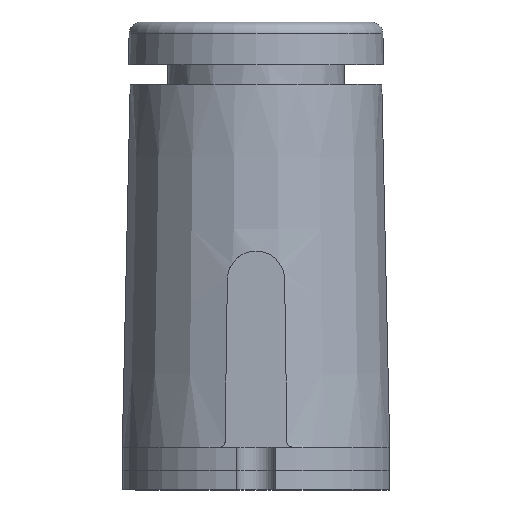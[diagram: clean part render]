
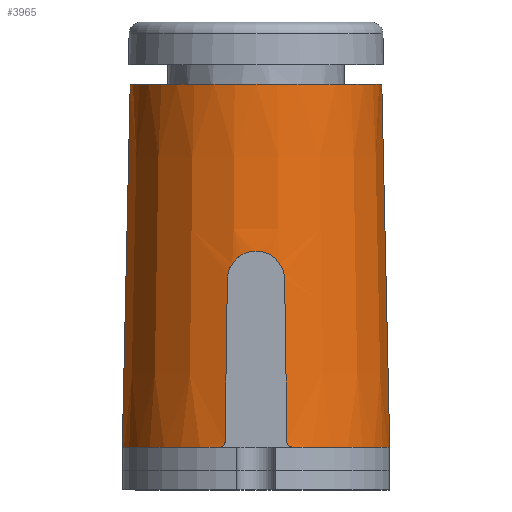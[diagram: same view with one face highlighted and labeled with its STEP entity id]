
A CAD part, left-side view. The second image highlights one B-rep face of the part: STEP entity #3965.
In plain terms, the highlighted conical face has half-angle 1.25 degrees and reference radius 44.45 mm.
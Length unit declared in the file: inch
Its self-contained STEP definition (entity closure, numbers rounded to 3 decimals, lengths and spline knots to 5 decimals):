
#52=(
BOUNDED_CURVE()
B_SPLINE_CURVE(2,(#8032,#8033,#8034),.UNSPECIFIED.,.F.,.F.)
B_SPLINE_CURVE_WITH_KNOTS((3,3),(0.,5.41489),.UNSPECIFIED.)
CURVE()
GEOMETRIC_REPRESENTATION_ITEM()
RATIONAL_B_SPLINE_CURVE((1.,1.,1.))
REPRESENTATION_ITEM('')
);
#53=(
BOUNDED_CURVE()
B_SPLINE_CURVE(2,(#8080,#8081,#8082),.UNSPECIFIED.,.F.,.F.)
B_SPLINE_CURVE_WITH_KNOTS((3,3),(0.,5.41489),.UNSPECIFIED.)
CURVE()
GEOMETRIC_REPRESENTATION_ITEM()
RATIONAL_B_SPLINE_CURVE((1.,1.,1.))
REPRESENTATION_ITEM('')
);
#87=CONICAL_SURFACE('',#4356,1.75,1.25);
#462=LINE('',#8285,#719);
#471=LINE('',#8310,#728);
#719=VECTOR('',#5243,4.73442);
#728=VECTOR('',#5278,4.73442);
#979=FACE_OUTER_BOUND('',#1228,.T.);
#1228=EDGE_LOOP('',(#3237,#3238,#3239,#3240,#3241,#3242,#3243,#3244,#3245,
#3246,#3247,#3248));
#1441=CIRCLE('',#4298,1.75);
#1459=CIRCLE('',#4349,1.64635);
#1461=CIRCLE('',#4357,1.75);
#1501=B_SPLINE_CURVE_WITH_KNOTS('',3,(#8042,#8043,#8044,#8045,#8046,#8047,
#8048,#8049,#8050,#8051),.UNSPECIFIED.,.F.,.F.,(4,2,2,2,4),(0.24589,
0.30631,0.36769,0.42782,0.48648),
 .UNSPECIFIED.);
#1502=B_SPLINE_CURVE_WITH_KNOTS('',3,(#8057,#8058,#8059,#8060,#8061,#8062,
#8063,#8064,#8065,#8066,#8067,#8068,#8069,#8070,#8071,#8072,#8073,#8074),
 .UNSPECIFIED.,.F.,.F.,(4,2,2,2,2,2,2,2,4),(0.009,0.35835,
0.7167,1.07553,1.43436,1.79319,2.15203,
2.51038,2.85973),.UNSPECIFIED.);
#1503=B_SPLINE_CURVE_WITH_KNOTS('',3,(#8088,#8089,#8090,#8091,#8092,#8093,
#8094,#8095,#8096,#8097),.UNSPECIFIED.,.F.,.F.,(4,2,2,2,4),(0.00146,
0.06013,0.12026,0.18164,0.24206),
 .UNSPECIFIED.);
#1505=B_SPLINE_CURVE_WITH_KNOTS('',3,(#8183,#8184,#8185,#8186,#8187,#8188,
#8189,#8190),.UNSPECIFIED.,.F.,.F.,(4,2,2,4),(0.31955,0.35845,
0.47794,0.47821),.UNSPECIFIED.);
#1507=B_SPLINE_CURVE_WITH_KNOTS('',3,(#8265,#8266,#8267,#8268,#8269,#8270,
#8271,#8272),.UNSPECIFIED.,.F.,.F.,(4,2,2,4),(1.43707,1.43733,
1.55683,1.59573),.UNSPECIFIED.);
#1767=VERTEX_POINT('',#8030);
#1768=VERTEX_POINT('',#8031);
#1771=VERTEX_POINT('',#8041);
#1773=VERTEX_POINT('',#8056);
#1775=VERTEX_POINT('',#8079);
#1777=VERTEX_POINT('',#8087);
#1780=VERTEX_POINT('',#8106);
#1803=VERTEX_POINT('',#8176);
#1805=VERTEX_POINT('',#8181);
#1828=VERTEX_POINT('',#8262);
#1829=VERTEX_POINT('',#8264);
#1832=VERTEX_POINT('',#8284);
#2227=EDGE_CURVE('',#1767,#1768,#52,.T.);
#2231=EDGE_CURVE('',#1771,#1767,#1501,.T.);
#2234=EDGE_CURVE('',#1768,#1773,#1502,.T.);
#2237=EDGE_CURVE('',#1773,#1775,#53,.T.);
#2240=EDGE_CURVE('',#1775,#1777,#1503,.T.);
#2245=EDGE_CURVE('',#1771,#1780,#1441,.T.);
#2279=EDGE_CURVE('',#1803,#1805,#1505,.T.);
#2313=EDGE_CURVE('',#1829,#1828,#1507,.T.);
#2320=EDGE_CURVE('',#1832,#1803,#462,.T.);
#2326=EDGE_CURVE('',#1829,#1805,#1459,.T.);
#2333=EDGE_CURVE('',#1832,#1777,#1461,.T.);
#2334=EDGE_CURVE('',#1780,#1828,#471,.T.);
#3237=ORIENTED_EDGE('',*,*,#2240,.T.);
#3238=ORIENTED_EDGE('',*,*,#2333,.F.);
#3239=ORIENTED_EDGE('',*,*,#2320,.T.);
#3240=ORIENTED_EDGE('',*,*,#2279,.T.);
#3241=ORIENTED_EDGE('',*,*,#2326,.F.);
#3242=ORIENTED_EDGE('',*,*,#2313,.T.);
#3243=ORIENTED_EDGE('',*,*,#2334,.F.);
#3244=ORIENTED_EDGE('',*,*,#2245,.F.);
#3245=ORIENTED_EDGE('',*,*,#2231,.T.);
#3246=ORIENTED_EDGE('',*,*,#2227,.T.);
#3247=ORIENTED_EDGE('',*,*,#2234,.T.);
#3248=ORIENTED_EDGE('',*,*,#2237,.T.);
#3965=ADVANCED_FACE('',(#979),#87,.T.);
#4298=AXIS2_PLACEMENT_3D('',#8107,#5102,#5103);
#4349=AXIS2_PLACEMENT_3D('',#8294,#5255,#5256);
#4356=AXIS2_PLACEMENT_3D('',#8308,#5274,#5275);
#4357=AXIS2_PLACEMENT_3D('',#8309,#5276,#5277);
#5102=DIRECTION('center_axis',(0.,0.,
-1.));
#5103=DIRECTION('ref_axis',(0.,-1.,0.));
#5243=DIRECTION('',(0.,0.022,1.));
#5255=DIRECTION('center_axis',(0.,0.,
1.));
#5256=DIRECTION('ref_axis',(0.,-1.,0.));
#5274=DIRECTION('center_axis',(0.,0.,
-1.));
#5275=DIRECTION('ref_axis',(0.,-1.,0.));
#5276=DIRECTION('center_axis',(0.,0.,
-1.));
#5277=DIRECTION('ref_axis',(0.,-1.,0.));
#5278=DIRECTION('',(0.,-0.022,1.));
#8030=CARTESIAN_POINT('',(-3.32602,0.40537,0.62411));
#8031=CARTESIAN_POINT('',(-3.28534,0.37496,2.75535));
#8032=CARTESIAN_POINT('Ctrl Pts',(-3.32602,0.40537,0.62411));
#8033=CARTESIAN_POINT('Ctrl Pts',(-3.3055,0.38998,1.70263));
#8034=CARTESIAN_POINT('Ctrl Pts',(-3.28534,0.37496,2.75535));
#8041=CARTESIAN_POINT('',(-3.3113,0.46786,0.5625));
#8042=CARTESIAN_POINT('Ctrl Pts',(-3.3113,0.46786,0.5625));
#8043=CARTESIAN_POINT('Ctrl Pts',(-3.31342,0.46021,0.5625));
#8044=CARTESIAN_POINT('Ctrl Pts',(-3.3156,0.45201,0.56399));
#8045=CARTESIAN_POINT('Ctrl Pts',(-3.31949,0.43668,0.5702));
#8046=CARTESIAN_POINT('Ctrl Pts',(-3.32119,0.42957,0.57497));
#8047=CARTESIAN_POINT('Ctrl Pts',(-3.32373,0.41837,0.58604));
#8048=CARTESIAN_POINT('Ctrl Pts',(-3.32476,0.41352,0.59302));
#8049=CARTESIAN_POINT('Ctrl Pts',(-3.32596,0.40711,0.60821));
#8050=CARTESIAN_POINT('Ctrl Pts',(-3.32617,0.40548,0.61639));
#8051=CARTESIAN_POINT('Ctrl Pts',(-3.32602,0.40537,0.62411));
#8056=CARTESIAN_POINT('',(-3.28534,-0.37496,2.75535));
#8057=CARTESIAN_POINT('Ctrl Pts',(-3.28534,0.37496,2.75535));
#8058=CARTESIAN_POINT('Ctrl Pts',(-3.28446,0.37431,2.80133));
#8059=CARTESIAN_POINT('Ctrl Pts',(-3.28562,0.36466,2.85003));
#8060=CARTESIAN_POINT('Ctrl Pts',(-3.2915,0.32666,2.94079));
#8061=CARTESIAN_POINT('Ctrl Pts',(-3.2962,0.2978,2.98266));
#8062=CARTESIAN_POINT('Ctrl Pts',(-3.30522,0.23143,3.04877));
#8063=CARTESIAN_POINT('Ctrl Pts',(-3.31014,0.18941,3.07747));
#8064=CARTESIAN_POINT('Ctrl Pts',(-3.31713,0.09724,
3.11559));
#8065=CARTESIAN_POINT('Ctrl Pts',(-3.31909,0.04709,
3.125));
#8066=CARTESIAN_POINT('Ctrl Pts',(-3.31909,-0.04709,
3.125));
#8067=CARTESIAN_POINT('Ctrl Pts',(-3.31713,-0.09724,
3.11559));
#8068=CARTESIAN_POINT('Ctrl Pts',(-3.31014,-0.18941,
3.07747));
#8069=CARTESIAN_POINT('Ctrl Pts',(-3.30522,-0.23143,
3.04877));
#8070=CARTESIAN_POINT('Ctrl Pts',(-3.2962,-0.2978,
2.98266));
#8071=CARTESIAN_POINT('Ctrl Pts',(-3.2915,-0.32666,
2.94079));
#8072=CARTESIAN_POINT('Ctrl Pts',(-3.28562,-0.36466,
2.85003));
#8073=CARTESIAN_POINT('Ctrl Pts',(-3.28446,-0.37431,
2.80133));
#8074=CARTESIAN_POINT('Ctrl Pts',(-3.28534,-0.37496,
2.75535));
#8079=CARTESIAN_POINT('',(-3.32602,-0.40537,0.62411));
#8080=CARTESIAN_POINT('Ctrl Pts',(-3.28534,-0.37496,
2.75535));
#8081=CARTESIAN_POINT('Ctrl Pts',(-3.3055,-0.38998,
1.70263));
#8082=CARTESIAN_POINT('Ctrl Pts',(-3.32602,-0.40537,
0.62411));
#8087=CARTESIAN_POINT('',(-3.3113,-0.46786,0.5625));
#8088=CARTESIAN_POINT('Ctrl Pts',(-3.32602,-0.40537,
0.62411));
#8089=CARTESIAN_POINT('Ctrl Pts',(-3.32617,-0.40548,
0.61639));
#8090=CARTESIAN_POINT('Ctrl Pts',(-3.32596,-0.40711,
0.60821));
#8091=CARTESIAN_POINT('Ctrl Pts',(-3.32476,-0.41352,
0.59302));
#8092=CARTESIAN_POINT('Ctrl Pts',(-3.32373,-0.41837,0.58604));
#8093=CARTESIAN_POINT('Ctrl Pts',(-3.32119,-0.42957,
0.57497));
#8094=CARTESIAN_POINT('Ctrl Pts',(-3.31949,-0.43668,
0.5702));
#8095=CARTESIAN_POINT('Ctrl Pts',(-3.3156,-0.45201,0.56399));
#8096=CARTESIAN_POINT('Ctrl Pts',(-3.31342,-0.46021,
0.5625));
#8097=CARTESIAN_POINT('Ctrl Pts',(-3.3113,-0.46786,0.5625));
#8106=CARTESIAN_POINT('',(-1.625,1.75,0.5625));
#8107=CARTESIAN_POINT('Origin',(-1.625,0.,0.5625));
#8176=CARTESIAN_POINT('',(-1.625,-1.64672,5.29579));
#8181=CARTESIAN_POINT('',(-1.68743,-1.64517,5.3125));
#8183=CARTESIAN_POINT('Ctrl Pts',(-1.625,-1.64672,5.29579));
#8184=CARTESIAN_POINT('Ctrl Pts',(-1.62967,-1.64666,5.29849));
#8185=CARTESIAN_POINT('Ctrl Pts',(-1.63455,-1.64659,5.30089));
#8186=CARTESIAN_POINT('Ctrl Pts',(-1.65494,-1.64622,5.30935));
#8187=CARTESIAN_POINT('Ctrl Pts',(-1.67166,-1.64577,5.31249));
#8188=CARTESIAN_POINT('Ctrl Pts',(-1.68736,-1.64517,5.3125));
#8189=CARTESIAN_POINT('Ctrl Pts',(-1.68739,-1.64517,5.3125));
#8190=CARTESIAN_POINT('Ctrl Pts',(-1.68743,-1.64517,5.3125));
#8262=CARTESIAN_POINT('',(-1.625,1.64672,5.29579));
#8264=CARTESIAN_POINT('',(-1.68743,1.64517,5.3125));
#8265=CARTESIAN_POINT('Ctrl Pts',(-1.68743,1.64517,5.3125));
#8266=CARTESIAN_POINT('Ctrl Pts',(-1.68739,1.64517,5.3125));
#8267=CARTESIAN_POINT('Ctrl Pts',(-1.68736,1.64517,5.3125));
#8268=CARTESIAN_POINT('Ctrl Pts',(-1.67166,1.64577,5.31249));
#8269=CARTESIAN_POINT('Ctrl Pts',(-1.65494,1.64622,5.30935));
#8270=CARTESIAN_POINT('Ctrl Pts',(-1.63455,1.64659,5.30089));
#8271=CARTESIAN_POINT('Ctrl Pts',(-1.62967,1.64666,5.29849));
#8272=CARTESIAN_POINT('Ctrl Pts',(-1.625,1.64672,5.29579));
#8284=CARTESIAN_POINT('',(-1.625,-1.75,0.5625));
#8285=CARTESIAN_POINT('',(-1.625,-1.75,0.5625));
#8294=CARTESIAN_POINT('Origin',(-1.625,0.,5.3125));
#8308=CARTESIAN_POINT('Origin',(-1.625,0.,0.5625));
#8309=CARTESIAN_POINT('Origin',(-1.625,0.,0.5625));
#8310=CARTESIAN_POINT('',(-1.625,1.75,0.5625));
